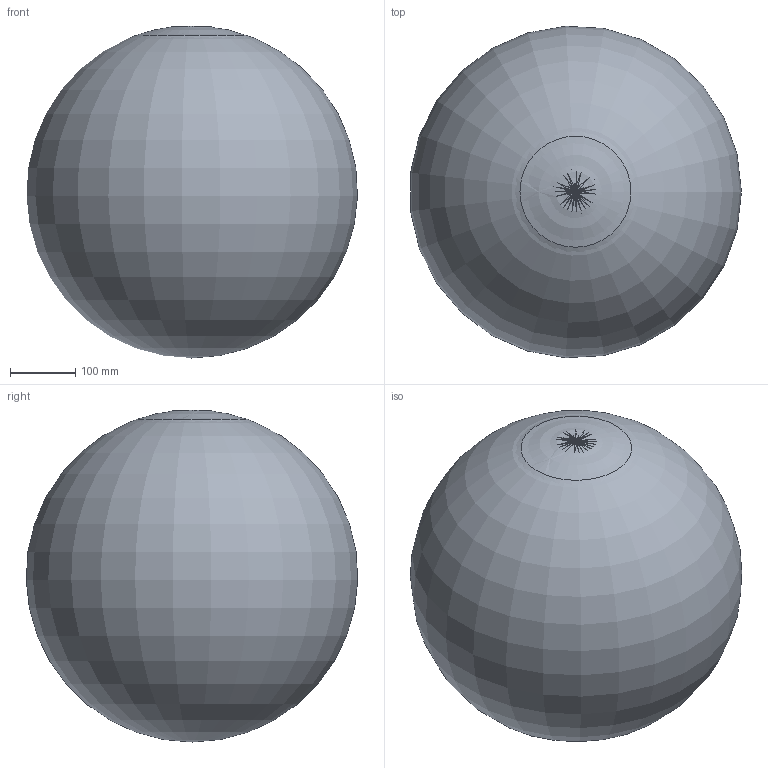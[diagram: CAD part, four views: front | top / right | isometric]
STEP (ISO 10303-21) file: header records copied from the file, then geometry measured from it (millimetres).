
FILE_DESCRIPTION(/* description */ ('Unknown'),/* implementation_level */ '2;1');
FILE_NAME(/* name */ '8628',/* time_stamp */ '2018-03-12T11:55:39+01:00',/* author */ ('Unknown'),/* organization */ ('Unknown'),/* preprocessor_version */ 'ST-DEVELOPER v16.7',/* originating_system */ 'DEX',/* authorisation */ $);
FILE_SCHEMA (('AUTOMOTIVE_DESIGN {1 0 10303 214 3 1 1}'));
Length unit declared in the file: millimetre
Products named in the file (5): 8628-8629-8630; 103000020531; 152000296064; N2279-9_oa_0; N2279-9-01
Assembly tree (4 placements, depth 3):
  8628-8629-8630
    103000020531
    152000296064
    N2279-9_oa_0
      N2279-9-01
Bounding box: 508.03 x 508.89 x 509.66 mm (x, y, z)
Volume: 1481776 mm3; surface area: 2084237.3 mm2
Topology: 3 solids, 3 shells, 43 faces, 102 edges, 70 vertices
Faces by surface type: torus 15, cylinder 15, plane 11, cone 2
Full cylindrical faces by diameter (mm): 2.7 x7, 4 x2, 6 x1, 6.5 x1, 7 x1, 8 x1, 97 x1, 102 x1
Entity records: 1219 total; most frequent: CARTESIAN_POINT 200, DIRECTION 190, FACE_BOUND 104, ORIENTED_EDGE 102, EDGE_LOOP 102, AXIS2_PLACEMENT_3D 95, VERTEX_POINT 53, EDGE_CURVE 51
